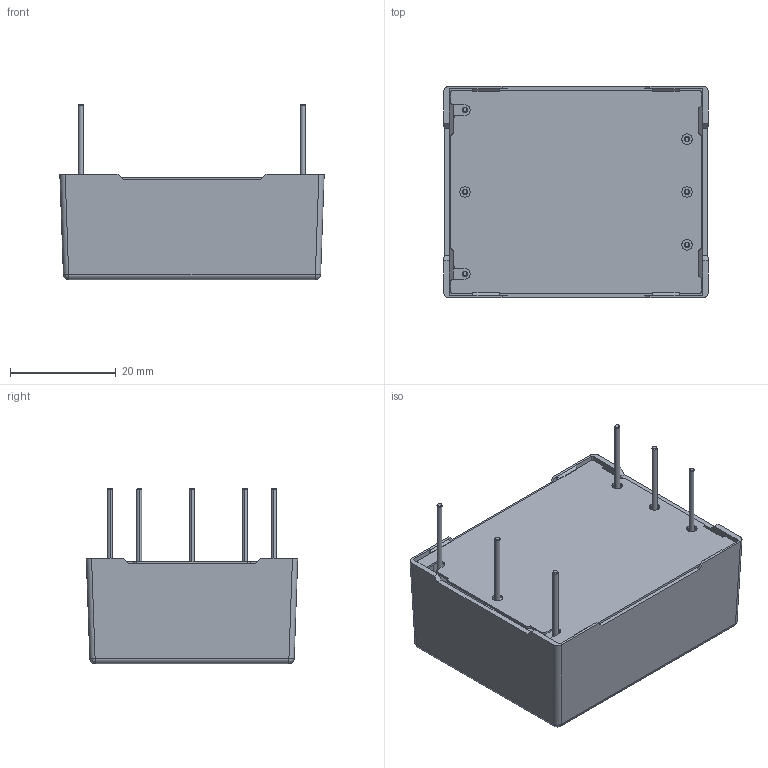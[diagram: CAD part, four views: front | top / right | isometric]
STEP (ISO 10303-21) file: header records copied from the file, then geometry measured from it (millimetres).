
FILE_DESCRIPTION (( 'STEP AP214' ), '1' );
FILE_NAME ('tms06-pcb-dual.STEP', '2015-12-22T12:59:47', ( '' ), ( '' ), 'SwSTEP 2.0', 'SolidWorks 2013', '' );
FILE_SCHEMA (( 'AUTOMOTIVE_DESIGN' ));
Length unit declared in the file: millimetre
Products named in the file (4): pin; Base; Case; tms06-pcb-dual
Assembly tree (8 placements, depth 2):
  tms06-pcb-dual
    Case
    Base
    pin  x6
Bounding box: 50 x 40 x 33.2 mm (x, y, z)
Volume: 5769.3 mm3; surface area: 14519 mm2
Topology: 8 solids, 10 shells, 265 faces, 678 edges, 436 vertices
Faces by surface type: plane 150, cylinder 83, cone 24, bspline 4, sphere 4
Entity records: 9601 total; most frequent: CARTESIAN_POINT 1436, ORIENTED_EDGE 1196, DIRECTION 1098, EDGE_CURVE 598, VECTOR 458, LINE 458, VERTEX_POINT 386, AXIS2_PLACEMENT_3D 320
